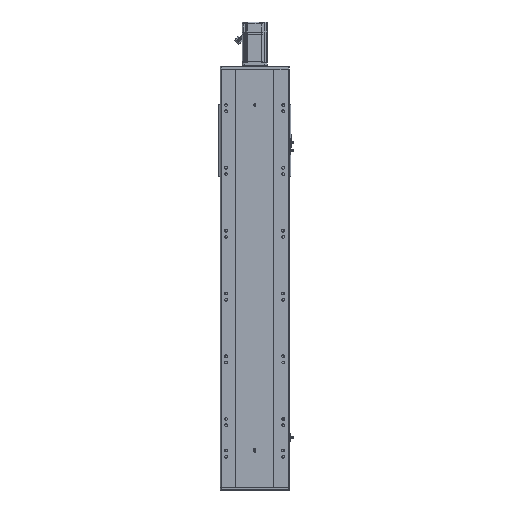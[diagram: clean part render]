
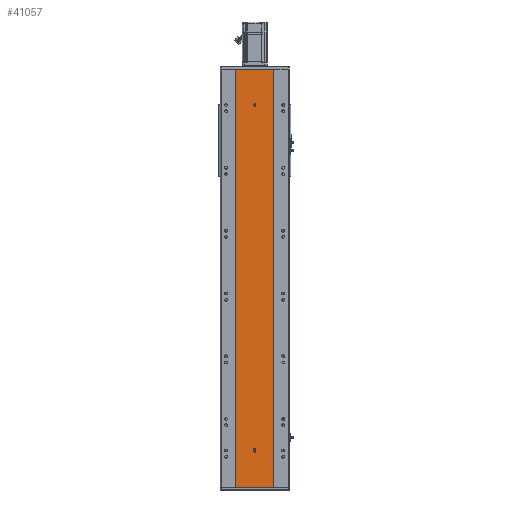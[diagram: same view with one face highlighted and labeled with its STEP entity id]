
A CAD part, front view. The second image highlights one B-rep face of the part: STEP entity #41057.
In plain terms, the highlighted planar face has unit normal (0, -1, 0).
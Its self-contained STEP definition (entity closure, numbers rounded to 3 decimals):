
#543 = CARTESIAN_POINT ( 'NONE',  ( -60., 0., 1332. ) ) ;
#646 = VERTEX_POINT ( 'NONE', #12680 ) ;
#1426 = EDGE_LOOP ( 'NONE', ( #31401, #14416, #7914, #16296 ) ) ;
#2111 = VERTEX_POINT ( 'NONE', #7122 ) ;
#2609 = EDGE_CURVE ( 'NONE', #2111, #646, #23590, .T. ) ;
#3277 = VECTOR ( 'NONE', #44327, 1000. ) ;
#3325 = ORIENTED_EDGE ( 'NONE', *, *, #29345, .F. ) ;
#4428 = CARTESIAN_POINT ( 'NONE',  ( 0., 0., 112.5 ) ) ;
#7122 = CARTESIAN_POINT ( 'NONE',  ( -4., 0., 119.5 ) ) ;
#7914 = ORIENTED_EDGE ( 'NONE', *, *, #12503, .F. ) ;
#8874 = LINE ( 'NONE', #36429, #38070 ) ;
#9839 = PLANE ( 'NONE',  #42969 ) ;
#10286 = FACE_BOUND ( 'NONE', #25594, .T. ) ;
#11644 = DIRECTION ( 'NONE',  ( 0., -1., 0. ) ) ;
#12503 = EDGE_CURVE ( 'NONE', #21439, #19844, #55821, .T. ) ;
#12680 = CARTESIAN_POINT ( 'NONE',  ( -4., 0., 116.5 ) ) ;
#13384 = VERTEX_POINT ( 'NONE', #33868 ) ;
#13772 = ORIENTED_EDGE ( 'NONE', *, *, #52957, .F. ) ;
#14351 = EDGE_CURVE ( 'NONE', #69658, #2111, #51216, .T. ) ;
#14416 = ORIENTED_EDGE ( 'NONE', *, *, #67555, .F. ) ;
#15563 = CARTESIAN_POINT ( 'NONE',  ( 0., 0., 1222. ) ) ;
#16296 = ORIENTED_EDGE ( 'NONE', *, *, #72939, .T. ) ;
#16799 = DIRECTION ( 'NONE',  ( 0., 0., -1. ) ) ;
#17317 = AXIS2_PLACEMENT_3D ( 'NONE', #19897, #48039, #59083 ) ;
#17720 = VECTOR ( 'NONE', #41401, 1000. ) ;
#19844 = VERTEX_POINT ( 'NONE', #36619 ) ;
#19897 = CARTESIAN_POINT ( 'NONE',  ( 0., 0., 1218. ) ) ;
#20695 = DIRECTION ( 'NONE',  ( 0., -1., 0. ) ) ;
#20915 = AXIS2_PLACEMENT_3D ( 'NONE', #56035, #11644, #22289 ) ;
#21439 = VERTEX_POINT ( 'NONE', #47830 ) ;
#21803 = VERTEX_POINT ( 'NONE', #36180 ) ;
#22289 = DIRECTION ( 'NONE',  ( 0., 0., -1. ) ) ;
#22440 = DIRECTION ( 'NONE',  ( 0., 0., -1. ) ) ;
#23379 = CARTESIAN_POINT ( 'NONE',  ( 0., 0., 116.5 ) ) ;
#23590 = LINE ( 'NONE', #33450, #3277 ) ;
#23661 = EDGE_CURVE ( 'NONE', #646, #59946, #26664, .T. ) ;
#25594 = EDGE_LOOP ( 'NONE', ( #72096, #54534, #72732, #65767, #33983 ) ) ;
#25629 = CARTESIAN_POINT ( 'NONE',  ( 0., 0., 119.5 ) ) ;
#26664 = CIRCLE ( 'NONE', #20915, 4. ) ;
#28297 = CARTESIAN_POINT ( 'NONE',  ( 60., 0., 0. ) ) ;
#28379 = CARTESIAN_POINT ( 'NONE',  ( -60., 0., 1332. ) ) ;
#29345 = EDGE_CURVE ( 'NONE', #13384, #30111, #29745, .T. ) ;
#29745 = CIRCLE ( 'NONE', #17317, 4. ) ;
#30111 = VERTEX_POINT ( 'NONE', #15563 ) ;
#31401 = ORIENTED_EDGE ( 'NONE', *, *, #33547, .T. ) ;
#33450 = CARTESIAN_POINT ( 'NONE',  ( -4., 0., 116.5 ) ) ;
#33547 = EDGE_CURVE ( 'NONE', #47629, #46212, #36313, .T. ) ;
#33868 = CARTESIAN_POINT ( 'NONE',  ( 0., 0., 1214. ) ) ;
#33983 = ORIENTED_EDGE ( 'NONE', *, *, #14351, .F. ) ;
#35708 = DIRECTION ( 'NONE',  ( 0., 0., -1. ) ) ;
#36180 = CARTESIAN_POINT ( 'NONE',  ( 4., 0., 116.5 ) ) ;
#36313 = LINE ( 'NONE', #52483, #17720 ) ;
#36429 = CARTESIAN_POINT ( 'NONE',  ( 4., 0., 116.5 ) ) ;
#36619 = CARTESIAN_POINT ( 'NONE',  ( 60., 0., 1332. ) ) ;
#38070 = VECTOR ( 'NONE', #64463, 1000. ) ;
#40511 = DIRECTION ( 'NONE',  ( 1., 0., 0. ) ) ;
#40843 = VECTOR ( 'NONE', #40511, 1000. ) ;
#41057 = ADVANCED_FACE ( 'NONE', ( #42097, #10286, #49998 ), #9839, .F. ) ;
#41401 = DIRECTION ( 'NONE',  ( 1., 0., 0. ) ) ;
#42097 = FACE_BOUND ( 'NONE', #51993, .T. ) ;
#42630 = CIRCLE ( 'NONE', #62360, 4. ) ;
#42969 = AXIS2_PLACEMENT_3D ( 'NONE', #72140, #66732, #49785 ) ;
#42996 = EDGE_CURVE ( 'NONE', #21803, #69658, #8874, .T. ) ;
#44327 = DIRECTION ( 'NONE',  ( 0., 0., -1. ) ) ;
#46212 = VERTEX_POINT ( 'NONE', #28297 ) ;
#47082 = CARTESIAN_POINT ( 'NONE',  ( 4., 0., 119.5 ) ) ;
#47629 = VERTEX_POINT ( 'NONE', #70361 ) ;
#47830 = CARTESIAN_POINT ( 'NONE',  ( -60., 0., 1332. ) ) ;
#48039 = DIRECTION ( 'NONE',  ( 0., -1., 0. ) ) ;
#49785 = DIRECTION ( 'NONE',  ( 0., 0., 1. ) ) ;
#49889 = CIRCLE ( 'NONE', #71614, 4. ) ;
#49998 = FACE_OUTER_BOUND ( 'NONE', #1426, .T. ) ;
#51036 = LINE ( 'NONE', #69383, #57194 ) ;
#51216 = CIRCLE ( 'NONE', #68573, 4. ) ;
#51993 = EDGE_LOOP ( 'NONE', ( #3325, #13772 ) ) ;
#52473 = VECTOR ( 'NONE', #16799, 1000. ) ;
#52483 = CARTESIAN_POINT ( 'NONE',  ( -60., 0., 0. ) ) ;
#52957 = EDGE_CURVE ( 'NONE', #30111, #13384, #42630, .T. ) ;
#54534 = ORIENTED_EDGE ( 'NONE', *, *, #60138, .F. ) ;
#55821 = LINE ( 'NONE', #543, #40843 ) ;
#55963 = DIRECTION ( 'NONE',  ( 0., -1., 0. ) ) ;
#56035 = CARTESIAN_POINT ( 'NONE',  ( 0., 0., 116.5 ) ) ;
#56178 = CARTESIAN_POINT ( 'NONE',  ( 0., 0., 1218. ) ) ;
#57194 = VECTOR ( 'NONE', #35708, 1000. ) ;
#57633 = DIRECTION ( 'NONE',  ( 0., -1., 0. ) ) ;
#59083 = DIRECTION ( 'NONE',  ( 0., 0., -1. ) ) ;
#59946 = VERTEX_POINT ( 'NONE', #4428 ) ;
#60110 = DIRECTION ( 'NONE',  ( 0., 0., -1. ) ) ;
#60138 = EDGE_CURVE ( 'NONE', #59946, #21803, #49889, .T. ) ;
#62360 = AXIS2_PLACEMENT_3D ( 'NONE', #56178, #55963, #22440 ) ;
#64463 = DIRECTION ( 'NONE',  ( 0., 0., 1. ) ) ;
#65767 = ORIENTED_EDGE ( 'NONE', *, *, #2609, .F. ) ;
#66732 = DIRECTION ( 'NONE',  ( 0., 1., 0. ) ) ;
#67423 = LINE ( 'NONE', #28379, #52473 ) ;
#67555 = EDGE_CURVE ( 'NONE', #19844, #46212, #51036, .T. ) ;
#68573 = AXIS2_PLACEMENT_3D ( 'NONE', #25629, #20695, #60110 ) ;
#68927 = DIRECTION ( 'NONE',  ( 0., 0., -1. ) ) ;
#69383 = CARTESIAN_POINT ( 'NONE',  ( 60., 0., 1332. ) ) ;
#69658 = VERTEX_POINT ( 'NONE', #47082 ) ;
#70361 = CARTESIAN_POINT ( 'NONE',  ( -60., 0., 0. ) ) ;
#71614 = AXIS2_PLACEMENT_3D ( 'NONE', #23379, #57633, #68927 ) ;
#72096 = ORIENTED_EDGE ( 'NONE', *, *, #42996, .F. ) ;
#72140 = CARTESIAN_POINT ( 'NONE',  ( -60., 0., 1332. ) ) ;
#72732 = ORIENTED_EDGE ( 'NONE', *, *, #23661, .F. ) ;
#72939 = EDGE_CURVE ( 'NONE', #21439, #47629, #67423, .T. ) ;
